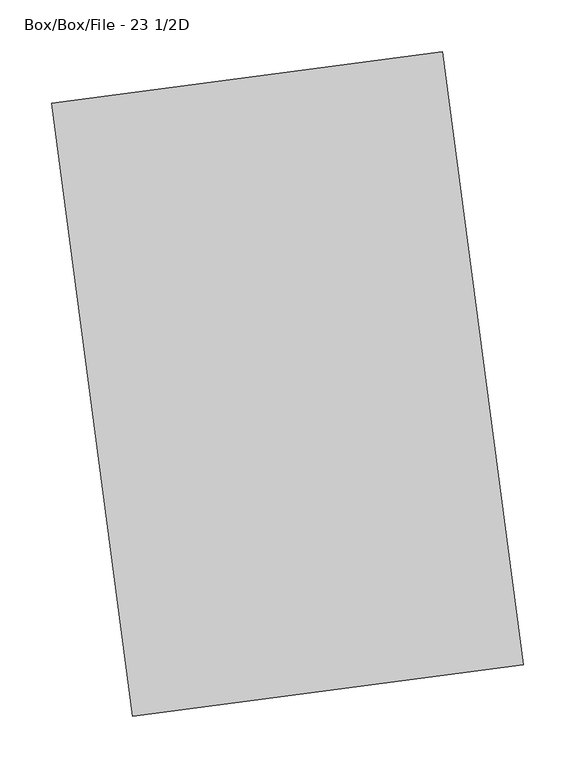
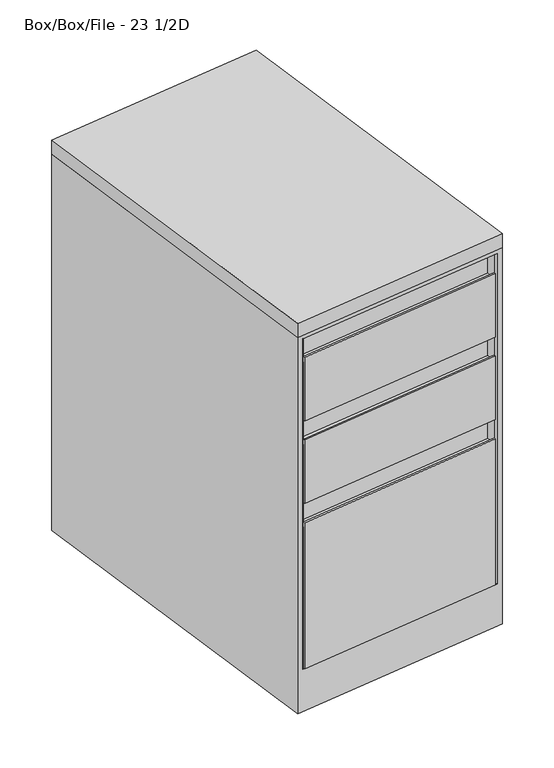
"""IFC4 building model written with IfcOpenShell, lengths in millimetres: furniture geometry, Steelcase - Universal Storage - Mobile Pedestal - Flush Steel : Box/Box/File - 23 1/2D."""

import ifcopenshell
import ifcopenshell.guid

model = None  # the IFC model being written
_history = None  # IfcOwnerHistory: only IFC2X3 demands one
_inside = {}  # id of a spatial element -> (the spatial element, [elements in it])
_under = {}  # id of a project, library or spatial element -> (it, [spatial elements below it])
_declared = {}  # id of a project -> (the project, [libraries it declares])
_typed = {}  # id of a type object -> (the type object, [elements of that type])
_made_of = {}  # id of a material, layer set ... -> (it, [elements and type objects made of it])


def new_model(schema):
    """Start an empty IFC model of exactly this schema.

    Asked for "IFC4X3", IfcOpenShell would pick the latest addendum, in which some entities
    have other attributes; the version numbers below select the first issue.
    IFC2X3 requires an IfcOwnerHistory on every rooted entity: one is made here for all.
    """
    global model, _history
    if schema == "IFC4X3":
        model = ifcopenshell.file(schema_version=(4, 3, 0, 0))
    else:
        model = ifcopenshell.file(schema=schema)
    _inside.clear()
    _under.clear()
    _declared.clear()
    _typed.clear()
    _made_of.clear()
    _history = None
    if model.schema == "IFC2X3":
        org = make("IfcOrganization", Name="unknown")
        user = make(
            "IfcPersonAndOrganization",
            ThePerson=make("IfcPerson", FamilyName="unknown"),
            TheOrganization=org,
        )
        app = make(
            "IfcApplication",
            ApplicationDeveloper=org,
            Version="unknown",
            ApplicationFullName="unknown",
            ApplicationIdentifier="unknown",
        )
        _history = make(
            "IfcOwnerHistory",
            OwningUser=user,
            OwningApplication=app,
            ChangeAction="ADDED",
            CreationDate=0,
        )
    return model


def make(cls, **values):
    """One entity of the class cls with the attributes given. An attribute that is None is left unset."""
    return model.create_entity(
        cls, **{name: value for name, value in values.items() if value is not None}
    )


def rooted(cls, **values):
    """An entity with a GlobalId (a new one), such as an element, a storey or a relation."""
    return make(cls, GlobalId=ifcopenshell.guid.new(), OwnerHistory=_history, **values)


def si_unit(unit_type, name, prefix=None):
    """IfcSIUnit, for example si_unit("LENGTHUNIT", "METRE", prefix="MILLI")."""
    return make("IfcSIUnit", UnitType=unit_type, Prefix=prefix, Name=name)


def assignment(units):
    """IfcUnitAssignment: the units of a project."""
    return None if units is None else make("IfcUnitAssignment", Units=units)


def point(xyz):
    """IfcCartesianPoint."""
    return None if xyz is None else make("IfcCartesianPoint", Coordinates=xyz)


def direction(xyz):
    """IfcDirection."""
    return None if xyz is None else make("IfcDirection", DirectionRatios=xyz)


def frame(location, z_axis=None, x_axis=None):
    """IfcAxis2Placement3D, a coordinate frame: its origin and axes. An axis left out is left unset."""
    return make(
        "IfcAxis2Placement3D",
        Location=point(location),
        Axis=direction(z_axis),
        RefDirection=direction(x_axis),
    )


def frame_2d(location, x_axis=None):
    """IfcAxis2Placement2D, a coordinate frame in the plane: its origin and x axis."""
    return make(
        "IfcAxis2Placement2D", Location=point(location), RefDirection=direction(x_axis)
    )


def origin():
    """The frame at (0, 0, 0) with its axes left unset."""
    return frame((0.0, 0.0, 0.0))


def place(relative_to, where):
    """IfcLocalPlacement: puts the frame where relative to a parent placement (None: the world)."""
    return make(
        "IfcLocalPlacement", PlacementRelTo=relative_to, RelativePlacement=where
    )


def context(
    kind, dimensions, precision=None, world=None, true_north=None, identifier=None
):
    """IfcGeometricRepresentationContext, for example the 3D "Model" context."""
    return make(
        "IfcGeometricRepresentationContext",
        ContextIdentifier=identifier,
        ContextType=kind,
        CoordinateSpaceDimension=dimensions,
        Precision=precision,
        WorldCoordinateSystem=world,
        TrueNorth=true_north,
    )


def project(units=None, contexts=None):
    """IfcProject with its units and contexts."""
    return rooted(
        "IfcProject",
        Name="project",
        RepresentationContexts=contexts,
        UnitsInContext=assignment(units),
    )


def spatial(cls, under=None, at=None, **own):
    """A site, building, storey or space (cls), placed at a placement, below another one or the project."""
    s = rooted(cls, ObjectPlacement=at, **own)
    if under is not None:
        _under.setdefault(under.id(), (under, []))[1].append(s)
    return s


def polyline(points):
    """IfcPolyline through the points."""
    return make("IfcPolyline", Points=[point(p) for p in points])


def circle_curve(where, radius):
    """IfcCircle in the frame where."""
    return make("IfcCircle", Position=where, Radius=radius)


def trimmed(basis, trim1, trim2, sense, master):
    """IfcTrimmedCurve: the piece of a basis curve between two trims."""
    return make(
        "IfcTrimmedCurve",
        BasisCurve=basis,
        Trim1=trim1,
        Trim2=trim2,
        SenseAgreement=sense,
        MasterRepresentation=master,
    )


def segment(curve, same_sense, transition):
    """IfcCompositeCurveSegment."""
    return make(
        "IfcCompositeCurveSegment",
        Transition=transition,
        SameSense=same_sense,
        ParentCurve=curve,
    )


def composite_curve(segments, self_intersect=None):
    """IfcCompositeCurve: segments joined end to end."""
    return make("IfcCompositeCurve", Segments=segments, SelfIntersect=self_intersect)


def outline(outer, holes=None, kind="AREA"):
    """IfcArbitraryClosedProfileDef: a profile drawn as a closed curve; with holes, ...WithVoids."""
    if holes is None:
        return make("IfcArbitraryClosedProfileDef", ProfileType=kind, OuterCurve=outer)
    return make(
        "IfcArbitraryProfileDefWithVoids",
        ProfileType=kind,
        OuterCurve=outer,
        InnerCurves=holes,
    )


def extrude(swept, where, along, depth):
    """IfcExtrudedAreaSolid: the profile swept, set in the frame where, extruded along a direction by depth."""
    return make(
        "IfcExtrudedAreaSolid",
        SweptArea=swept,
        Position=where,
        ExtrudedDirection=direction(along),
        Depth=depth,
    )


def faces_of(points, faces, orient=None, outer=None):
    """IfcFace entities. A face is a list of loops; a loop is a list of indices into points, from 0.

    orient and outer hold one flag for each loop. By default every Orientation is true, the
    first loop of a face is its IfcFaceOuterBound and the others are IfcFaceBound.
    """
    made = []
    for i, loops in enumerate(faces):
        bounds = []
        for j, loop in enumerate(loops):
            is_outer = j == 0 if outer is None else outer[i][j]
            bounds.append(
                make(
                    "IfcFaceOuterBound" if is_outer else "IfcFaceBound",
                    Bound=make("IfcPolyLoop", Polygon=[points[k] for k in loop]),
                    Orientation=True if orient is None else orient[i][j],
                )
            )
        made.append(make("IfcFace", Bounds=bounds))
    return made


def faceted_brep(points, faces, orient=None, outer=None, voids=None):
    """IfcFacetedBrep: a solid bounded by flat faces; with voids (closed shells), ...WithVoids."""
    shared = [point(p) for p in points]
    hull = make("IfcClosedShell", CfsFaces=faces_of(shared, faces, orient, outer))
    if voids is None:
        return make("IfcFacetedBrep", Outer=hull)
    return make(
        "IfcFacetedBrepWithVoids",
        Outer=hull,
        Voids=[
            make(cls, CfsFaces=faces_of(shared, fs, o, b)) for cls, fs, o, b in voids
        ],
    )


def shape(context_of_items, identifier, shape_type, items):
    """IfcShapeRepresentation: the items that make up one representation, for example the "Body"."""
    return make(
        "IfcShapeRepresentation",
        ContextOfItems=context_of_items,
        RepresentationIdentifier=identifier,
        RepresentationType=shape_type,
        Items=items,
    )


def source(mapping_origin, context_of_items, identifier, shape_type, items):
    """IfcRepresentationMap: a shape defined once, which mapped items show again and again."""
    return make(
        "IfcRepresentationMap",
        MappingOrigin=mapping_origin,
        MappedRepresentation=shape(context_of_items, identifier, shape_type, items),
    )


def transform(
    local_origin,
    x_axis=None,
    y_axis=None,
    z_axis=None,
    scale=None,
    scale2=None,
    scale3=None,
    uniform=True,
):
    """IfcCartesianTransformationOperator3D, or its non-uniform kind. x_axis, y_axis, z_axis: its Axis1, 2, 3."""
    if uniform:
        return make(
            "IfcCartesianTransformationOperator3D",
            Axis1=direction(x_axis),
            Axis2=direction(y_axis),
            LocalOrigin=point(local_origin),
            Scale=scale,
            Axis3=direction(z_axis),
        )
    return make(
        "IfcCartesianTransformationOperator3DnonUniform",
        Axis1=direction(x_axis),
        Axis2=direction(y_axis),
        LocalOrigin=point(local_origin),
        Scale=scale,
        Axis3=direction(z_axis),
        Scale2=scale2,
        Scale3=scale3,
    )


def mapped(mapping_source, mapping_target):
    """IfcMappedItem: shows the shape of a source again, moved by a transform."""
    return make(
        "IfcMappedItem", MappingSource=mapping_source, MappingTarget=mapping_target
    )


def made_of(thing, what):
    """Note that an element or type object is made of a material, layer set ...; save() writes the relation."""
    if what is not None:
        _made_of.setdefault(what.id(), (what, []))[1].append(thing)
    return thing


def element(
    cls,
    number,
    at=None,
    inside=None,
    cuts=None,
    type_object=None,
    material=None,
    context=None,
    identifier="Body",
    shape_type=None,
    held_by="IfcProductDefinitionShape",
    body=None,
    shapes=None,
    **own,
):
    """One element of the class cls, such as IfcWall. Its Tag is "e" and its number.

    at: its placement. inside: the storey or other place that contains it. cuts: it is an
    opening in that element (IfcRelVoidsElement). A single representation is given by context,
    identifier, shape_type and body (its items); several are given by shapes. held_by: the class
    of the entity that holds the representations. save() writes the other relations.
    """
    e = rooted(cls, Tag="e%d" % number, ObjectPlacement=at, **own)
    if body is not None:
        shapes = [shape(context, identifier, shape_type, body)]
    if shapes is not None:
        e.Representation = make(held_by, Representations=shapes)
    if inside is not None:
        _inside.setdefault(inside.id(), (inside, []))[1].append(e)
    if cuts is not None:
        rooted(
            "IfcRelVoidsElement", RelatingBuildingElement=cuts, RelatedOpeningElement=e
        )
    if type_object is not None:
        _typed.setdefault(type_object.id(), (type_object, []))[1].append(e)
    return made_of(e, material)


def aggregate(whole, parts):
    """IfcRelAggregates: a whole, such as a stair, and the parts it consists of."""
    return rooted("IfcRelAggregates", RelatingObject=whole, RelatedObjects=parts)


def save(model, path):
    """Write the relations noted so far, then the file.

    IfcRelAggregates (storeys below a building ...), IfcRelContainedInSpatialStructure (elements
    in a storey), IfcRelDefinesByType, IfcRelAssociatesMaterial and IfcRelDeclares: one each for
    every whole, place, type object, material and project.
    """
    for whole, parts in _under.values():
        aggregate(whole, parts)
    for where, things in _inside.values():
        rooted(
            "IfcRelContainedInSpatialStructure",
            RelatedElements=things,
            RelatingStructure=where,
        )
    for kind, things in _typed.values():
        rooted("IfcRelDefinesByType", RelatedObjects=things, RelatingType=kind)
    for what, things in _made_of.values():
        rooted("IfcRelAssociatesMaterial", RelatedObjects=things, RelatingMaterial=what)
    for by, libraries in _declared.values():
        rooted("IfcRelDeclares", RelatingContext=by, RelatedDefinitions=libraries)
    model.write(path)


def box_box_file_23_1_2d_a2e83b4c(model_context):
    return source(origin(), model_context, "Body", "SolidModel", [
        extrude(outline(polyline([(377.7311592, 49.8013183), (0.0, 0.0), (-78.0220654, 591.7788162), (299.7090938, 641.5801345), (377.7311592, 49.8013183)])), frame((0.0, 0.0, 685.8), z_axis=(0.0, 0.0, 1.0), x_axis=(1.0, 0.0, 0.0)), (0.0, 0.0, 1.0), 25.4),
        extrude(outline(composite_curve([segment(trimmed(circle_curve(frame_2d((0.0, -31.75)), 31.75), [point((0.0, -63.5))], [point((0.0, 0.0))], False, "CARTESIAN"), True, "CONTINUOUS"), segment(trimmed(circle_curve(frame_2d((0.0, -31.75)), 31.75), [point((0.0, 0.0))], [point((0.0, -63.5))], False, "CARTESIAN"), True, "CONTINUOUS")], self_intersect=False)), frame((252.7702674, 616.3034404, 31.75), z_axis=(0.9914203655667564, 0.13071212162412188, 0.0), x_axis=(0.0, 0.0, -1.0)), (0.0, 0.0, 1.0), 38.1),
        extrude(outline(composite_curve([segment(trimmed(circle_curve(frame_2d((0.0, -31.75)), 31.75), [point((0.0, -63.5))], [point((0.0, 0.0))], False, "CARTESIAN"), True, "CONTINUOUS"), segment(trimmed(circle_curve(frame_2d((0.0, -31.75)), 31.75), [point((0.0, 0.0))], [point((0.0, -63.5))], False, "CARTESIAN"), True, "CONTINUOUS")], self_intersect=False)), frame((-63.8843107, 574.3371216, 31.75), z_axis=(0.9914203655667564, 0.13071212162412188, 0.0), x_axis=(0.0, 0.0, -1.0)), (0.0, 0.0, 1.0), 38.1),
        extrude(outline(composite_curve([segment(trimmed(circle_curve(frame_2d((0.0, -31.75)), 31.75), [point((0.0, -63.5))], [point((0.0, 0.0))], False, "CARTESIAN"), True, "CONTINUOUS"), segment(trimmed(circle_curve(frame_2d((0.0, -31.75)), 31.75), [point((0.0, 0.0))], [point((0.0, -63.5))], False, "CARTESIAN"), True, "CONTINUOUS")], self_intersect=False)), frame((317.5119829, 125.2529213, 31.75), z_axis=(0.9914203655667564, 0.13071212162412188, 0.0), x_axis=(0.0, 0.0, -1.0)), (0.0, 0.0, 1.0), 38.1),
        extrude(outline(composite_curve([segment(trimmed(circle_curve(frame_2d((0.0, -31.75)), 31.75), [point((0.0, -63.5))], [point((0.0, 0.0))], False, "CARTESIAN"), True, "CONTINUOUS"), segment(trimmed(circle_curve(frame_2d((0.0, -31.75)), 31.75), [point((0.0, 0.0))], [point((0.0, -63.5))], False, "CARTESIAN"), True, "CONTINUOUS")], self_intersect=False)), frame((0.8565804, 83.5040316, 31.75), z_axis=(0.9914203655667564, 0.13071212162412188, 0.0), x_axis=(0.0, 0.0, -1.0)), (0.0, 0.0, 1.0), 38.1),
        extrude(outline(polyline([(364.8325558, 51.3029701), (12.2838426, 4.8217882), (10.2087876, 20.560587), (362.7575008, 67.0417688), (364.8325558, 51.3029701)])), frame((0.0, 0.0, 82.5919123), z_axis=(0.0, 0.0, 1.0), x_axis=(1.0, 0.0, 0.0)), (0.0, 0.0, 1.0), 254.000003),
        extrude(outline(polyline([(365.2474805, 48.1558644), (12.6987674, 1.6746826), (12.2838426, 4.8217882), (364.8325558, 51.3029701), (365.2474805, 48.1558644)])), frame((0.0, 0.0, 82.5919123), z_axis=(0.0, 0.0, 1.0), x_axis=(1.0, 0.0, 0.0)), (0.0, 0.0, 1.0), 263.524997),
        extrude(outline(polyline([(364.8325558, 51.3029701), (12.2838426, 4.8217882), (10.2087876, 20.560587), (362.7575008, 67.0417688), (364.8325558, 51.3029701)])), frame((0.0, 0.0, 380.9149214), z_axis=(0.0, 0.0, 1.0), x_axis=(1.0, 0.0, 0.0)), (0.0, 0.0, 1.0), 104.9019879),
        extrude(outline(polyline([(365.2475369, 48.1554365), (12.6988238, 1.6742547), (12.2838426, 4.8217882), (364.8325558, 51.3029701), (365.2475369, 48.1554365)])), frame((0.0, 0.0, 380.9149214), z_axis=(0.0, 0.0, 1.0), x_axis=(1.0, 0.0, 0.0)), (0.0, 0.0, 1.0), 114.3),
        extrude(outline(polyline([(364.8325558, 51.3029701), (12.2838426, 4.8217882), (10.2087876, 20.560587), (362.7575008, 67.0417688), (364.8325558, 51.3029701)])), frame((0.0, 0.0, 530.2250121), z_axis=(0.0, 0.0, 1.0), x_axis=(1.0, 0.0, 0.0)), (0.0, 0.0, 1.0), 104.7749939),
        extrude(outline(polyline([(365.2475369, 48.1554365), (12.6988238, 1.6742547), (12.2838426, 4.8217882), (364.8325558, 51.3029701), (365.2475369, 48.1554365)])), frame((0.0, 0.0, 530.2250121), z_axis=(0.0, 0.0, 1.0), x_axis=(1.0, 0.0, 0.0)), (0.0, 0.0, 1.0), 114.2999758),
        faceted_brep([(299.7090938, 641.5801345, 685.8), (377.7311592, 49.8013183, 685.8), (377.7311592, 49.8013183, 6.35), (299.7090938, 641.5801345, 6.35), (-78.0220654, 591.7788162, 685.8), (-78.0220654, 591.7788162, 6.35), (0.0, 0.0, 6.35), (0.0, 0.0, 685.8), (368.3957391, 48.5705058, 679.45), (368.3957391, 48.5705058, 82.5919123), (9.5512903, 1.2592735, 82.5919123), (9.5512903, 1.2592735, 679.45), (12.2838426, 4.8217882, 679.45), (10.2087876, 20.560587, 679.45), (362.7567941, 67.0416757, 679.45), (364.8324685, 51.3036321, 679.45), (10.2087876, 20.560587, 82.5919123), (362.7567941, 67.0416757, 82.5919123), (12.2838426, 4.8217882, 82.5919123), (364.8324685, 51.3036321, 82.5919123)], [[[0, 1, 2, 3]], [[4, 5, 6, 7]], [[1, 0, 4, 7]], [[2, 1, 7, 6], [8, 9, 10, 11]], [[8, 11, 12, 13, 14, 15]], [[14, 13, 16, 17]], [[17, 16, 18, 10, 9, 19]], [[3, 2, 6, 5]], [[0, 3, 5, 4]], [[11, 10, 18, 12]], [[12, 18, 16, 13]], [[19, 15, 14, 17]], [[15, 19, 9, 8]]]),
    ])


if __name__ == "__main__":
    model = new_model("IFC4")
    model_context = context("Model", 3, world=origin())
    ifc_project = project(units=[si_unit("LENGTHUNIT", "METRE", prefix="MILLI")], contexts=[model_context])
    site = spatial("IfcSite", under=ifc_project)
    building = spatial("IfcBuilding", under=site)
    placement = place(None, origin())
    box_box_file_23_1_2d_shape = box_box_file_23_1_2d_a2e83b4c(model_context)
    element("IfcFurniture", 1, ObjectType="Steelcase - Universal Storage - Mobile Pedestal - Flush Steel : Box/Box/File - 23 1/2D", at=placement, inside=building, context=model_context, shape_type="MappedRepresentation", body=[
        mapped(box_box_file_23_1_2d_shape, transform((0.0, 0.0, 0.0), x_axis=(1.0, 0.0, 0.0), y_axis=(0.0, 1.0, 0.0), z_axis=(0.0, 0.0, 1.0))),
    ])
    save(model, "model.ifc")
